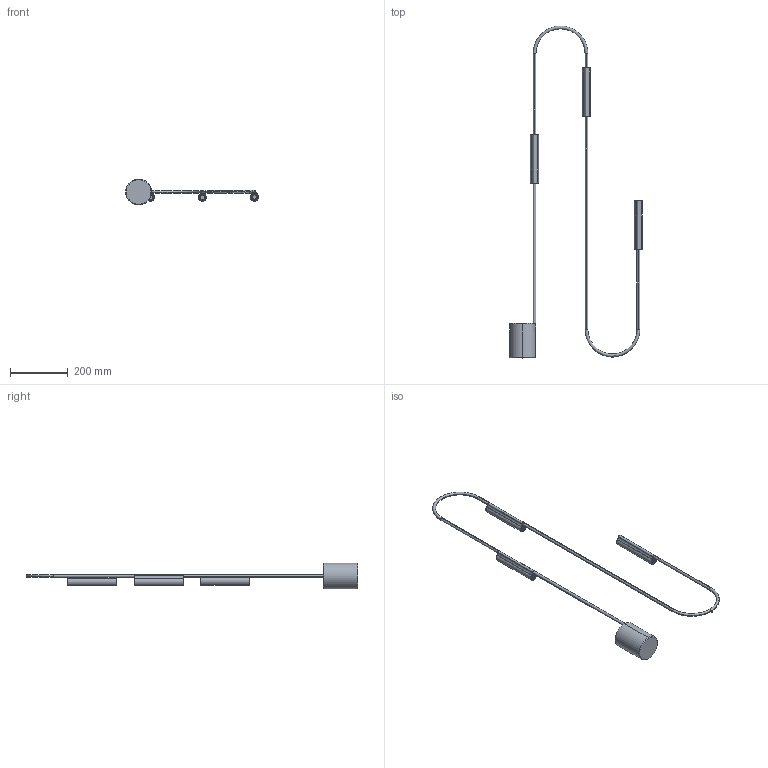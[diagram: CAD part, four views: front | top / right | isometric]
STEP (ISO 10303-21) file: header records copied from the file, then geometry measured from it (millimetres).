
FILE_DESCRIPTION (( 'STEP AP214' ), '1' );
FILE_NAME ('Pop - Floor.STEP', '2024-04-08T05:47:41', ( '' ), ( '' ), 'SwSTEP 2.0', 'SolidWorks 2017', '' );
FILE_SCHEMA (( 'AUTOMOTIVE_DESIGN' ));
Length unit declared in the file: millimetre
Products named in the file (1): Pop - Floor
Bounding box: 460.42 x 1150 x 90 mm (x, y, z)
Volume: 1194837.1 mm3; surface area: 310647.8 mm2
Topology: 17 solids, 17 shells, 532 faces, 1339 edges, 858 vertices
Faces by surface type: cylinder 266, plane 135, torus 79, cone 39, bspline 13
Entity records: 24945 total; most frequent: CARTESIAN_POINT 5639, DIRECTION 2921, ORIENTED_EDGE 2674, EDGE_CURVE 1337, AXIS2_PLACEMENT_3D 1268, VERTEX_POINT 858, CIRCLE 748, EDGE_LOOP 683
